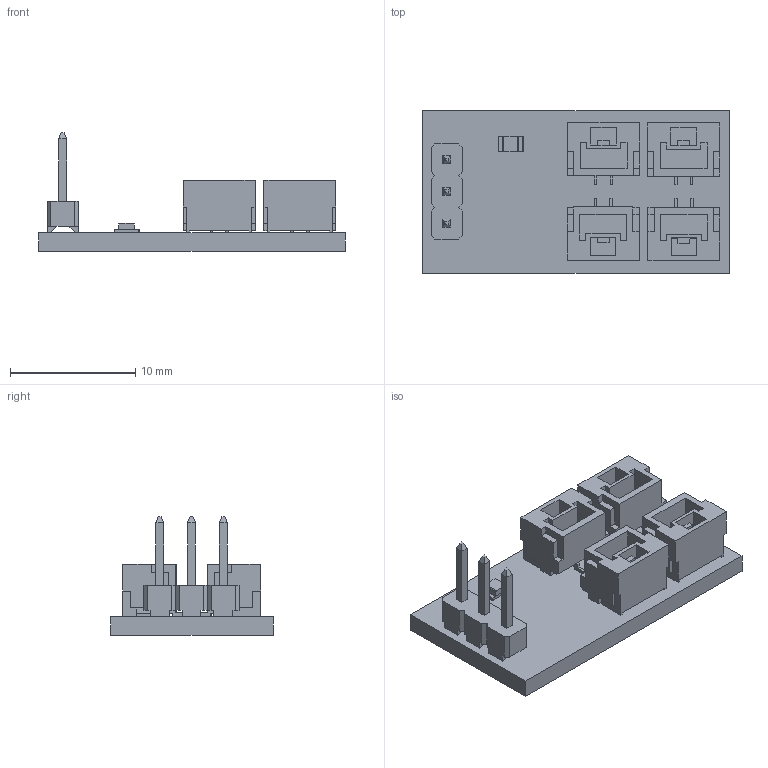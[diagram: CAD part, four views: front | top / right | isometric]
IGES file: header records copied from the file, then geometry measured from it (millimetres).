
Start section: SolidWorks IGES file using analytic representation for surfaces
Global section: file name: C:\Users\Agamemnon\Documents\SOS\SOS-ASM-LEAK-SENSOR-R1\SOS-ASM-LEAK-SENSOR-R1.IGS; native system: SolidWorks 2016; preprocessor: SolidWorks 2016; author: Agamemnon; date: 180702.093538; units: metre
Bounding box: 24.5 x 13 x 9.5 mm (x, y, z)
Surface area: 1658.6 mm2 (no closed solid volume)
Topology: 0 solids, 0 shells, 446 faces, 2362 edges, 2362 vertices
Faces by surface type: bspline 444, revolution 2
